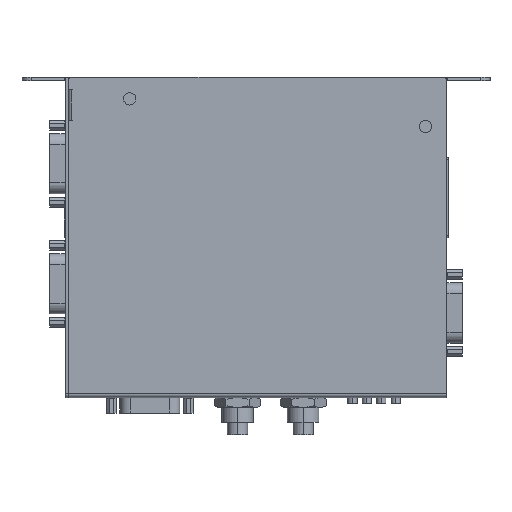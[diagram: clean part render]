
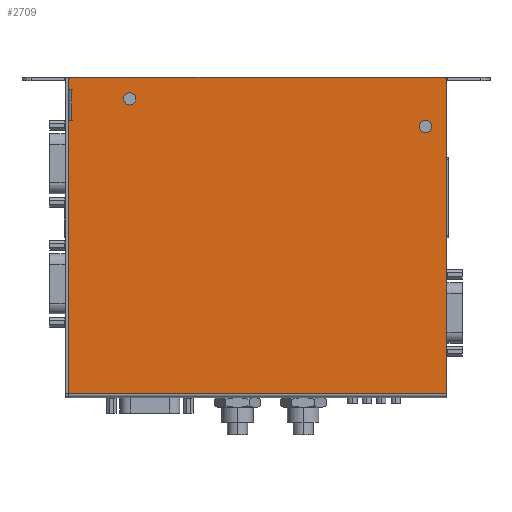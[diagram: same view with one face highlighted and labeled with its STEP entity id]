
A CAD part, top view. The second image highlights one B-rep face of the part: STEP entity #2709.
In plain terms, the highlighted planar face has unit normal (0, 0, 1).
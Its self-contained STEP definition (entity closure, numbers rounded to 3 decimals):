
#165=TRIMMED_CURVE($,#1067,(#25138),(#25139),.T.,.CARTESIAN.);
#167=TRIMMED_CURVE($,#1069,(#25148),(#25149),.T.,.CARTESIAN.);
#181=TRIMMED_CURVE($,#1083,(#25346),(#25347),.T.,.CARTESIAN.);
#183=TRIMMED_CURVE($,#1085,(#25352),(#25353),.T.,.CARTESIAN.);
#193=TRIMMED_CURVE($,#1095,(#25382),(#25383),.T.,.CARTESIAN.);
#195=TRIMMED_CURVE($,#1097,(#25388),(#25389),.T.,.CARTESIAN.);
#1067=CIRCLE('',#18961,2.);
#1069=CIRCLE('',#18963,2.);
#1083=CIRCLE('',#18977,1.2);
#1085=CIRCLE('',#18979,1.2);
#1095=CIRCLE('',#18989,2.);
#1097=CIRCLE('',#18991,2.);
#2425=FACE_BOUND('',#4925,.T.);
#2426=FACE_BOUND('',#4926,.T.);
#2709=ADVANCED_FACE('',(#3804,#2425,#2426),#18056,.T.);
#3804=FACE_OUTER_BOUND('',#4924,.T.);
#4924=EDGE_LOOP('',(#6595,#6596,#6597,#6598,#6599,#6600,#6601,#6602,#6603,
#6604,#6605,#6606,#6607,#6608));
#4925=EDGE_LOOP('',(#6609,#6610));
#4926=EDGE_LOOP('',(#6611,#6612));
#6595=ORIENTED_EDGE('',*,*,#11925,.T.);
#6596=ORIENTED_EDGE('',*,*,#11853,.F.);
#6597=ORIENTED_EDGE('',*,*,#11855,.T.);
#6598=ORIENTED_EDGE('',*,*,#11856,.T.);
#6599=ORIENTED_EDGE('',*,*,#11857,.T.);
#6600=ORIENTED_EDGE('',*,*,#11858,.T.);
#6601=ORIENTED_EDGE('',*,*,#11859,.T.);
#6602=ORIENTED_EDGE('',*,*,#11860,.T.);
#6603=ORIENTED_EDGE('',*,*,#11861,.T.);
#6604=ORIENTED_EDGE('',*,*,#11854,.F.);
#6605=ORIENTED_EDGE('',*,*,#11862,.T.);
#6606=ORIENTED_EDGE('',*,*,#11863,.T.);
#6607=ORIENTED_EDGE('',*,*,#11927,.T.);
#6608=ORIENTED_EDGE('',*,*,#11864,.T.);
#6609=ORIENTED_EDGE('',*,*,#11939,.T.);
#6610=ORIENTED_EDGE('',*,*,#11829,.T.);
#6611=ORIENTED_EDGE('',*,*,#11833,.T.);
#6612=ORIENTED_EDGE('',*,*,#11937,.T.);
#11829=EDGE_CURVE('',#16444,#16443,#165,.T.);
#11833=EDGE_CURVE('',#16448,#16447,#167,.T.);
#11853=EDGE_CURVE('',#16455,#16456,#14440,.T.);
#11854=EDGE_CURVE('',#16382,#16457,#14441,.T.);
#11855=EDGE_CURVE('',#16455,#16470,#14442,.T.);
#11856=EDGE_CURVE('',#16470,#16471,#14443,.T.);
#11857=EDGE_CURVE('',#16471,#16472,#14444,.T.);
#11858=EDGE_CURVE('',#16472,#16473,#14445,.T.);
#11859=EDGE_CURVE('',#16473,#16474,#14446,.T.);
#11860=EDGE_CURVE('',#16474,#16475,#14447,.T.);
#11861=EDGE_CURVE('',#16475,#16457,#14448,.T.);
#11862=EDGE_CURVE('',#16382,#16476,#14449,.T.);
#11863=EDGE_CURVE('',#16476,#16477,#14450,.T.);
#11864=EDGE_CURVE('',#16478,#16479,#14451,.T.);
#11925=EDGE_CURVE('',#16479,#16456,#181,.T.);
#11927=EDGE_CURVE('',#16477,#16478,#183,.T.);
#11937=EDGE_CURVE('',#16447,#16448,#193,.T.);
#11939=EDGE_CURVE('',#16443,#16444,#195,.T.);
#14440=B_SPLINE_CURVE_WITH_KNOTS('',1,(#25190,#25191),.UNSPECIFIED.,.F.,
 .F.,(2,2),(0.,2.67),.UNSPECIFIED.);
#14441=B_SPLINE_CURVE_WITH_KNOTS('',1,(#25192,#25193),.UNSPECIFIED.,.F.,
 .F.,(2,2),(0.,88.67),.UNSPECIFIED.);
#14442=B_SPLINE_CURVE_WITH_KNOTS('',1,(#25194,#25195),.UNSPECIFIED.,.F.,
 .F.,(2,2),(0.,1.33),.UNSPECIFIED.);
#14443=B_SPLINE_CURVE_WITH_KNOTS('',1,(#25196,#25197),.UNSPECIFIED.,.F.,
 .F.,(2,2),(0.,0.13),.UNSPECIFIED.);
#14444=B_SPLINE_CURVE_WITH_KNOTS('',1,(#25198,#25199),.UNSPECIFIED.,.F.,
 .F.,(2,2),(0.,0.13),.UNSPECIFIED.);
#14445=B_SPLINE_CURVE_WITH_KNOTS('',1,(#25200,#25201),.UNSPECIFIED.,.F.,
 .F.,(2,2),(0.,10.),.UNSPECIFIED.);
#14446=B_SPLINE_CURVE_WITH_KNOTS('',1,(#25202,#25203),.UNSPECIFIED.,.F.,
 .F.,(2,2),(0.,0.13),.UNSPECIFIED.);
#14447=B_SPLINE_CURVE_WITH_KNOTS('',1,(#25204,#25205),.UNSPECIFIED.,.F.,
 .F.,(2,2),(0.,0.13),.UNSPECIFIED.);
#14448=B_SPLINE_CURVE_WITH_KNOTS('',1,(#25206,#25207),.UNSPECIFIED.,.F.,
 .F.,(2,2),(0.,1.33),.UNSPECIFIED.);
#14449=B_SPLINE_CURVE_WITH_KNOTS('',1,(#25208,#25209),.UNSPECIFIED.,.F.,
 .F.,(2,2),(0.,123.),.UNSPECIFIED.);
#14450=B_SPLINE_CURVE_WITH_KNOTS('',1,(#25210,#25211),.UNSPECIFIED.,.F.,
 .F.,(2,2),(0.,101.6),.UNSPECIFIED.);
#14451=B_SPLINE_CURVE_WITH_KNOTS('',1,(#25212,#25213),.UNSPECIFIED.,.F.,
 .F.,(2,2),(0.,120.6),.UNSPECIFIED.);
#16382=VERTEX_POINT('',#24832);
#16443=VERTEX_POINT('',#24893);
#16444=VERTEX_POINT('',#24894);
#16447=VERTEX_POINT('',#24897);
#16448=VERTEX_POINT('',#24898);
#16455=VERTEX_POINT('',#24905);
#16456=VERTEX_POINT('',#24906);
#16457=VERTEX_POINT('',#24907);
#16470=VERTEX_POINT('',#24920);
#16471=VERTEX_POINT('',#24921);
#16472=VERTEX_POINT('',#24922);
#16473=VERTEX_POINT('',#24923);
#16474=VERTEX_POINT('',#24924);
#16475=VERTEX_POINT('',#24925);
#16476=VERTEX_POINT('',#24926);
#16477=VERTEX_POINT('',#24927);
#16478=VERTEX_POINT('',#24928);
#16479=VERTEX_POINT('',#24929);
#18056=PLANE('',#18858);
#18858=AXIS2_PLACEMENT_3D('',#24758,#20863,$);
#18961=AXIS2_PLACEMENT_3D($,#25137,#20995,#20996);
#18963=AXIS2_PLACEMENT_3D($,#25147,#20999,#21000);
#18977=AXIS2_PLACEMENT_3D($,#25345,#21027,#21028);
#18979=AXIS2_PLACEMENT_3D($,#25351,#21031,#21032);
#18989=AXIS2_PLACEMENT_3D($,#25381,#21051,#21052);
#18991=AXIS2_PLACEMENT_3D($,#25387,#21055,#21056);
#20863=DIRECTION('',(0.,0.,1.));
#20995=DIRECTION('',(0.,0.,-1.));
#20996=DIRECTION('',(1.,0.,0.));
#20999=DIRECTION('',(0.,0.,-1.));
#21000=DIRECTION('',(1.,0.,0.));
#21027=DIRECTION('',(0.,0.,1.));
#21028=DIRECTION('',(0.,1.,0.));
#21031=DIRECTION('',(0.,0.,1.));
#21032=DIRECTION('',(1.,0.,0.));
#21051=DIRECTION('',(0.,0.,-1.));
#21052=DIRECTION('',(-1.,0.,0.));
#21055=DIRECTION('',(0.,0.,-1.));
#21056=DIRECTION('',(-1.,0.,0.));
#24758=CARTESIAN_POINT('',(-70.767,-182.072,82.863));
#24832=CARTESIAN_POINT('',(-58.467,-171.792,82.863));
#24893=CARTESIAN_POINT('',(-40.467,-75.992,82.863));
#24894=CARTESIAN_POINT('',(-36.467,-75.992,82.863));
#24897=CARTESIAN_POINT('',(55.533,-84.992,82.863));
#24898=CARTESIAN_POINT('',(59.533,-84.992,82.863));
#24905=CARTESIAN_POINT('',(-58.467,-72.862,82.863));
#24906=CARTESIAN_POINT('',(-58.467,-70.192,82.863));
#24907=CARTESIAN_POINT('',(-58.467,-83.122,82.863));
#24920=CARTESIAN_POINT('',(-57.137,-72.862,82.863));
#24921=CARTESIAN_POINT('',(-57.137,-72.992,82.863));
#24922=CARTESIAN_POINT('',(-57.267,-72.992,82.863));
#24923=CARTESIAN_POINT('',(-57.267,-82.992,82.863));
#24924=CARTESIAN_POINT('',(-57.137,-82.992,82.863));
#24925=CARTESIAN_POINT('',(-57.137,-83.122,82.863));
#24926=CARTESIAN_POINT('',(64.533,-171.792,82.863));
#24927=CARTESIAN_POINT('',(64.533,-70.192,82.863));
#24928=CARTESIAN_POINT('',(63.333,-68.992,82.863));
#24929=CARTESIAN_POINT('',(-57.267,-68.992,82.863));
#25137=CARTESIAN_POINT('',(-38.467,-75.992,82.863));
#25138=CARTESIAN_POINT('',(-36.467,-75.992,82.863));
#25139=CARTESIAN_POINT('',(-40.467,-75.992,82.863));
#25147=CARTESIAN_POINT('',(57.533,-84.992,82.863));
#25148=CARTESIAN_POINT('',(59.533,-84.992,82.863));
#25149=CARTESIAN_POINT('',(55.533,-84.992,82.863));
#25190=CARTESIAN_POINT('',(-58.467,-72.862,82.863));
#25191=CARTESIAN_POINT('',(-58.467,-70.192,82.863));
#25192=CARTESIAN_POINT('',(-58.467,-171.792,82.863));
#25193=CARTESIAN_POINT('',(-58.467,-83.122,82.863));
#25194=CARTESIAN_POINT('',(-58.467,-72.862,82.863));
#25195=CARTESIAN_POINT('',(-57.137,-72.862,82.863));
#25196=CARTESIAN_POINT('',(-57.137,-72.862,82.863));
#25197=CARTESIAN_POINT('',(-57.137,-72.992,82.863));
#25198=CARTESIAN_POINT('',(-57.137,-72.992,82.863));
#25199=CARTESIAN_POINT('',(-57.267,-72.992,82.863));
#25200=CARTESIAN_POINT('',(-57.267,-72.992,82.863));
#25201=CARTESIAN_POINT('',(-57.267,-82.992,82.863));
#25202=CARTESIAN_POINT('',(-57.267,-82.992,82.863));
#25203=CARTESIAN_POINT('',(-57.137,-82.992,82.863));
#25204=CARTESIAN_POINT('',(-57.137,-82.992,82.863));
#25205=CARTESIAN_POINT('',(-57.137,-83.122,82.863));
#25206=CARTESIAN_POINT('',(-57.137,-83.122,82.863));
#25207=CARTESIAN_POINT('',(-58.467,-83.122,82.863));
#25208=CARTESIAN_POINT('',(-58.467,-171.792,82.863));
#25209=CARTESIAN_POINT('',(64.533,-171.792,82.863));
#25210=CARTESIAN_POINT('',(64.533,-171.792,82.863));
#25211=CARTESIAN_POINT('',(64.533,-70.192,82.863));
#25212=CARTESIAN_POINT('',(63.333,-68.992,82.863));
#25213=CARTESIAN_POINT('',(-57.267,-68.992,82.863));
#25345=CARTESIAN_POINT('',(-57.267,-70.192,82.863));
#25346=CARTESIAN_POINT('',(-57.267,-68.992,82.863));
#25347=CARTESIAN_POINT('',(-58.467,-70.192,82.863));
#25351=CARTESIAN_POINT('',(63.333,-70.192,82.863));
#25352=CARTESIAN_POINT('',(64.533,-70.192,82.863));
#25353=CARTESIAN_POINT('',(63.333,-68.992,82.863));
#25381=CARTESIAN_POINT('',(57.533,-84.992,82.863));
#25382=CARTESIAN_POINT('',(55.533,-84.992,82.863));
#25383=CARTESIAN_POINT('',(59.533,-84.992,82.863));
#25387=CARTESIAN_POINT('',(-38.467,-75.992,82.863));
#25388=CARTESIAN_POINT('',(-40.467,-75.992,82.863));
#25389=CARTESIAN_POINT('',(-36.467,-75.992,82.863));
